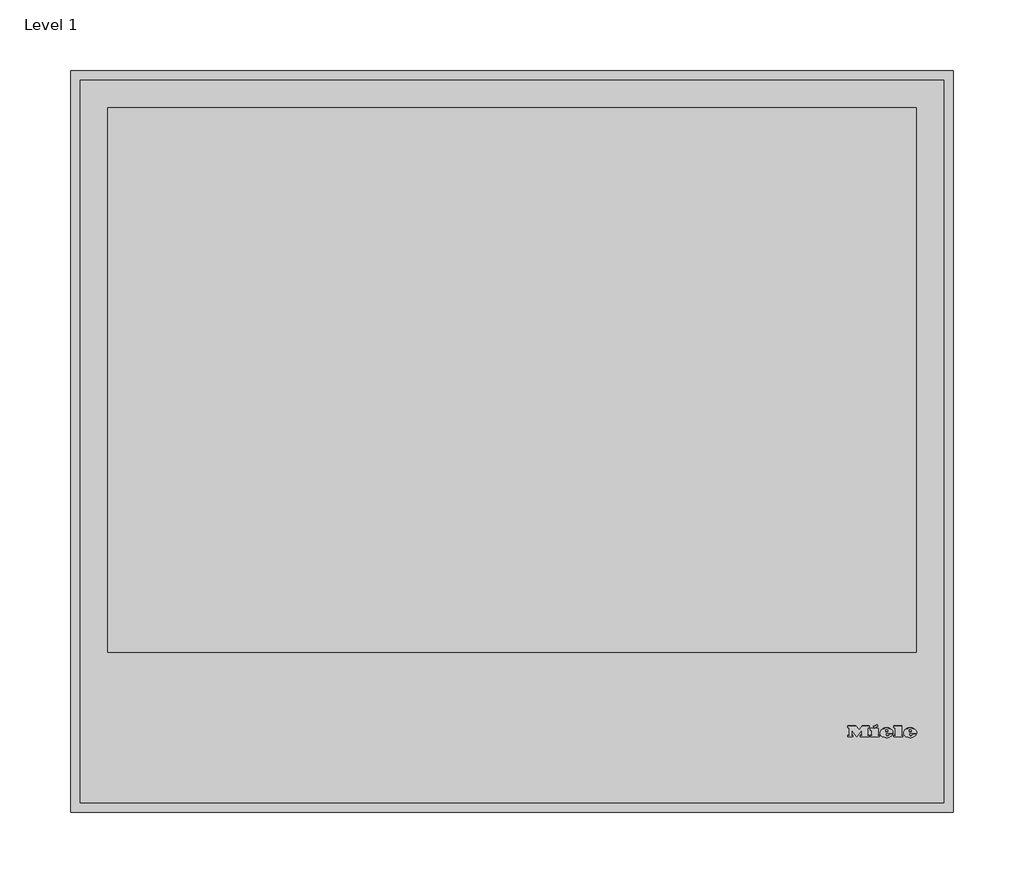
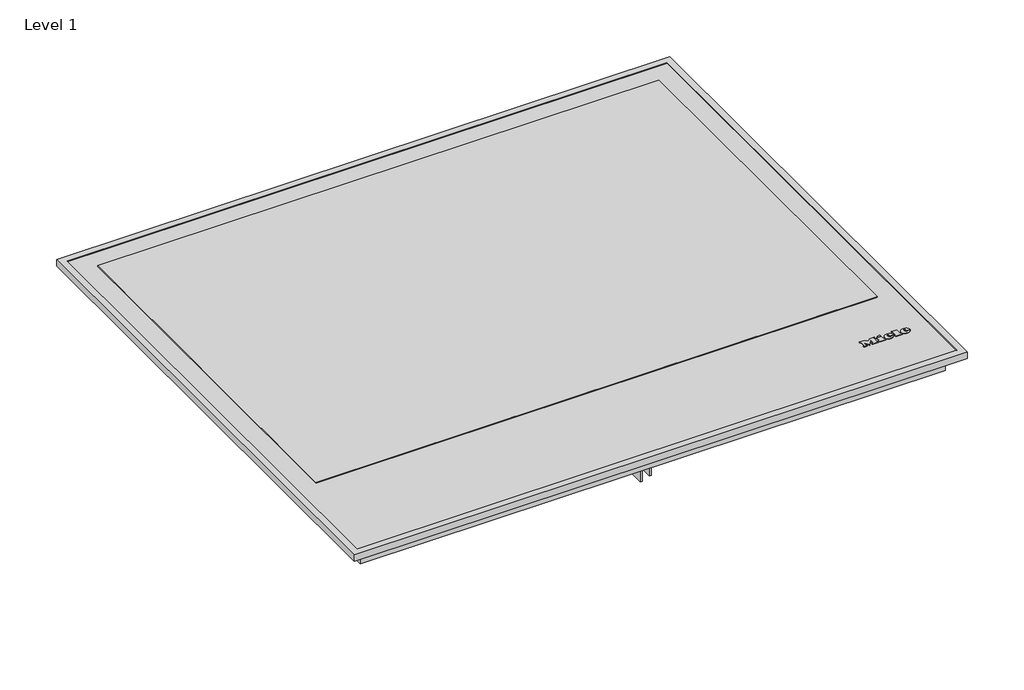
# One storey: 1 proxy.
"""IFC4 building model written with IfcOpenShell, lengths in millimetres."""

from ifc_helpers import new_model, si_unit, origin, place, context, project, spatial, transform, mapped, element, save
from components import specialty_equipment_535f46d4

model = new_model("IFC4")

# Units and contexts
model_context = context("Model", 3, world=origin())
ifc_project = project(units=[si_unit("LENGTHUNIT", "METRE", prefix="MILLI")], contexts=[model_context])

# Site, building, storey
site = spatial("IfcSite", under=ifc_project)
building = spatial("IfcBuilding", under=site)
storey = spatial("IfcBuildingStorey", under=building, Name="Level 1", Elevation=0.0)

# Proxy
placement = place(None, origin())
specialty_equipment_shape = specialty_equipment_535f46d4(model_context)
element("IfcBuildingElementProxy", 1, Name="11128710_D_KM7667FR : 26766700_D_11128710_KM7667FR", ObjectType="11128710_D_KM7667FR : 26766700_D_11128710_KM7667FR", at=placement, inside=storey, context=model_context, shape_type="MappedRepresentation", body=[
    mapped(specialty_equipment_shape, transform((0.0, 0.0, 0.0), x_axis=(1.0, 0.0, 0.0), y_axis=(0.0, 1.0, 0.0), z_axis=(0.0, 0.0, 1.0))),
])

save(model, "model.ifc")
